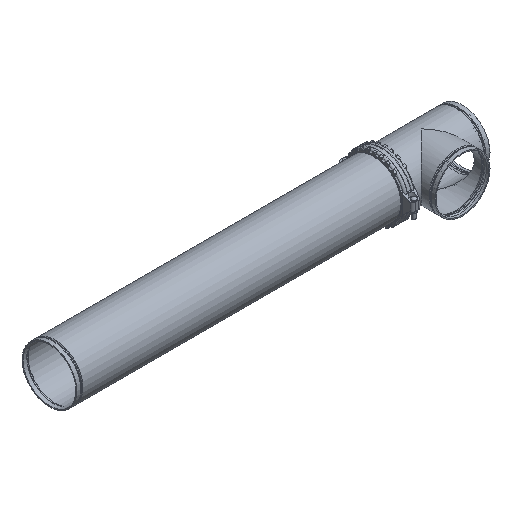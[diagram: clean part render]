
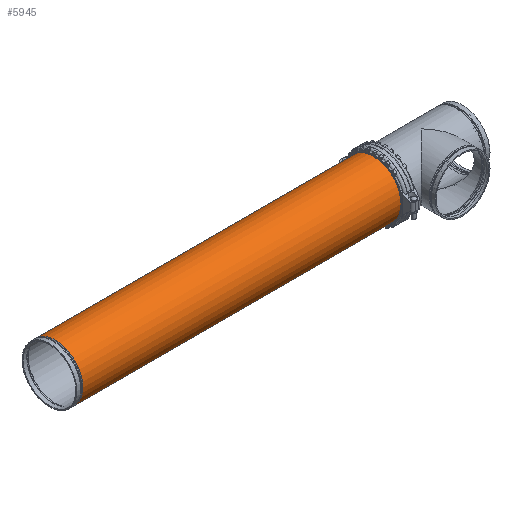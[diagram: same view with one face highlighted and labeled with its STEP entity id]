
A CAD part, isometric view. The second image highlights one B-rep face of the part: STEP entity #5945.
In plain terms, the highlighted cylindrical face has radius 254 mm (diameter 508 mm), a full revolution.
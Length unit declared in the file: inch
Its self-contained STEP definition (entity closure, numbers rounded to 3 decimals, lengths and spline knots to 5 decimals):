
#310=LINE('',#8890,#626);
#626=VECTOR('',#7138,10.);
#941=CYLINDRICAL_SURFACE('',#6375,10.);
#1101=FACE_OUTER_BOUND('',#1411,.T.);
#1411=EDGE_LOOP('',(#3729,#3730,#3731,#3732,#3733,#3734));
#1755=CIRCLE('',#6373,10.);
#1756=CIRCLE('',#6374,10.);
#1757=CIRCLE('',#6376,10.);
#1758=CIRCLE('',#6377,10.);
#2152=VERTEX_POINT('',#8880);
#2153=VERTEX_POINT('',#8881);
#2154=VERTEX_POINT('',#8886);
#2155=VERTEX_POINT('',#8887);
#2789=EDGE_CURVE('',#2152,#2153,#1755,.T.);
#2790=EDGE_CURVE('',#2153,#2152,#1756,.T.);
#2792=EDGE_CURVE('',#2154,#2155,#1757,.T.);
#2793=EDGE_CURVE('',#2155,#2154,#1758,.T.);
#2794=EDGE_CURVE('',#2155,#2153,#310,.T.);
#3729=ORIENTED_EDGE('',*,*,#2792,.F.);
#3730=ORIENTED_EDGE('',*,*,#2793,.F.);
#3731=ORIENTED_EDGE('',*,*,#2794,.T.);
#3732=ORIENTED_EDGE('',*,*,#2790,.T.);
#3733=ORIENTED_EDGE('',*,*,#2789,.T.);
#3734=ORIENTED_EDGE('',*,*,#2794,.F.);
#5945=ADVANCED_FACE('',(#1101),#941,.T.);
#6373=AXIS2_PLACEMENT_3D('',#8882,#7127,#7128);
#6374=AXIS2_PLACEMENT_3D('',#8883,#7129,#7130);
#6375=AXIS2_PLACEMENT_3D('',#8885,#7132,#7133);
#6376=AXIS2_PLACEMENT_3D('',#8888,#7134,#7135);
#6377=AXIS2_PLACEMENT_3D('',#8889,#7136,#7137);
#7127=DIRECTION('center_axis',(1.,0.,0.));
#7128=DIRECTION('ref_axis',(0.,1.,0.));
#7129=DIRECTION('center_axis',(1.,0.,0.));
#7130=DIRECTION('ref_axis',(0.,1.,0.));
#7132=DIRECTION('center_axis',(1.,0.,0.));
#7133=DIRECTION('ref_axis',(0.,1.,0.));
#7134=DIRECTION('center_axis',(1.,0.,0.));
#7135=DIRECTION('ref_axis',(0.,1.,0.));
#7136=DIRECTION('center_axis',(1.,0.,0.));
#7137=DIRECTION('ref_axis',(0.,1.,0.));
#7138=DIRECTION('',(-1.,0.,0.));
#8880=CARTESIAN_POINT('',(-57.88023,10.,0.));
#8881=CARTESIAN_POINT('',(-57.88023,-10.,0.));
#8882=CARTESIAN_POINT('Origin',(-57.88023,0.,
0.));
#8883=CARTESIAN_POINT('Origin',(-57.88023,0.,
0.));
#8885=CARTESIAN_POINT('Origin',(0.,0.,
0.));
#8886=CARTESIAN_POINT('',(57.88023,10.,0.));
#8887=CARTESIAN_POINT('',(57.88023,-10.,0.));
#8888=CARTESIAN_POINT('Origin',(57.88023,0.,0.));
#8889=CARTESIAN_POINT('Origin',(57.88023,0.,0.));
#8890=CARTESIAN_POINT('',(0.,-10.,0.));
